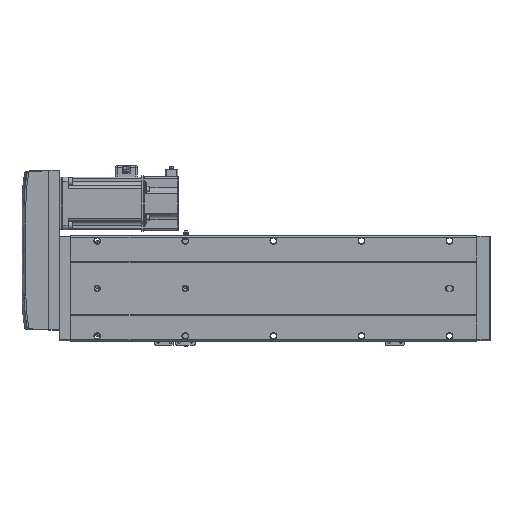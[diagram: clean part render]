
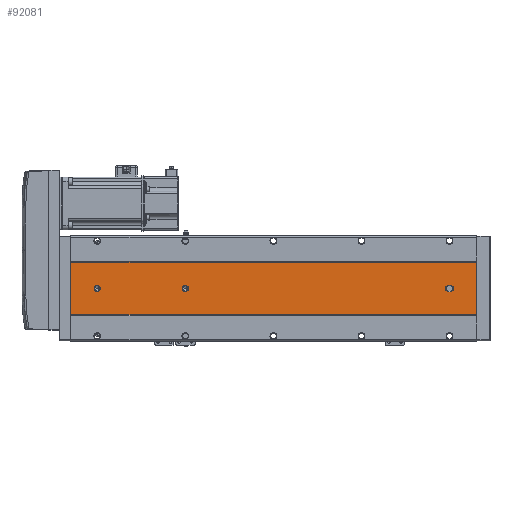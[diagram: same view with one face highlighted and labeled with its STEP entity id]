
A CAD part, front view. The second image highlights one B-rep face of the part: STEP entity #92081.
In plain terms, the highlighted planar face has unit normal (0, -1, 0).
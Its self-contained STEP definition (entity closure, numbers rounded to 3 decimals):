
#198 = CARTESIAN_POINT ( 'NONE',  ( -9.892, -52.848, 461. ) ) ;
#5840 = CARTESIAN_POINT ( 'NONE',  ( -43.392, -52.848, 32. ) ) ;
#7730 = CARTESIAN_POINT ( 'NONE',  ( -69.892, -52.848, 461. ) ) ;
#7739 = CARTESIAN_POINT ( 'NONE',  ( -39.892, -52.848, 327.5 ) ) ;
#8607 = AXIS2_PLACEMENT_3D ( 'NONE', #7730, #62104, #39400 ) ;
#8898 = EDGE_CURVE ( 'NONE', #44907, #81621, #56741, .T. ) ;
#8966 = DIRECTION ( 'NONE',  ( 0., 1., 0. ) ) ;
#9325 = DIRECTION ( 'NONE',  ( 0., 0., 1. ) ) ;
#10676 = CARTESIAN_POINT ( 'NONE',  ( -39.892, -52.848, 431. ) ) ;
#12040 = EDGE_CURVE ( 'NONE', #81042, #95299, #71099, .T. ) ;
#12882 = AXIS2_PLACEMENT_3D ( 'NONE', #22229, #22903, #61471 ) ;
#14608 = VERTEX_POINT ( 'NONE', #7739 ) ;
#15593 = DIRECTION ( 'NONE',  ( 0., 0., -1. ) ) ;
#16696 = ORIENTED_EDGE ( 'NONE', *, *, #8898, .T. ) ;
#17447 = CARTESIAN_POINT ( 'NONE',  ( -36.392, -52.848, 30. ) ) ;
#18337 = DIRECTION ( 'NONE',  ( 0., 1., 0. ) ) ;
#18970 = VERTEX_POINT ( 'NONE', #74453 ) ;
#20279 = DIRECTION ( 'NONE',  ( 0., 1., 0. ) ) ;
#21101 = EDGE_LOOP ( 'NONE', ( #91919, #40662 ) ) ;
#22111 = EDGE_CURVE ( 'NONE', #78019, #67251, #85796, .T. ) ;
#22229 = CARTESIAN_POINT ( 'NONE',  ( -39.892, -52.848, 331. ) ) ;
#22248 = CARTESIAN_POINT ( 'NONE',  ( -43.392, -52.848, 30. ) ) ;
#22252 = DIRECTION ( 'NONE',  ( 0., 0., 1. ) ) ;
#22376 = EDGE_CURVE ( 'NONE', #72151, #44907, #88194, .T. ) ;
#22903 = DIRECTION ( 'NONE',  ( 0., 1., 0. ) ) ;
#23802 = LINE ( 'NONE', #69312, #34887 ) ;
#26170 = CARTESIAN_POINT ( 'NONE',  ( -39.892, -52.848, 26.5 ) ) ;
#27383 = EDGE_CURVE ( 'NONE', #14608, #60573, #78781, .T. ) ;
#27561 = ORIENTED_EDGE ( 'NONE', *, *, #77263, .T. ) ;
#28607 = EDGE_CURVE ( 'NONE', #72017, #74970, #99547, .T. ) ;
#29290 = DIRECTION ( 'NONE',  ( 0., 0., -1. ) ) ;
#31434 = EDGE_CURVE ( 'NONE', #95299, #72151, #52305, .T. ) ;
#34220 = CARTESIAN_POINT ( 'NONE',  ( -39.892, -52.848, 431. ) ) ;
#34887 = VECTOR ( 'NONE', #15593, 1000. ) ;
#35324 = CARTESIAN_POINT ( 'NONE',  ( -69.892, -52.848, 0. ) ) ;
#36169 = CARTESIAN_POINT ( 'NONE',  ( -36.392, -52.848, 461. ) ) ;
#36738 = EDGE_CURVE ( 'NONE', #81621, #81042, #45639, .T. ) ;
#38735 = FACE_OUTER_BOUND ( 'NONE', #73675, .T. ) ;
#39400 = DIRECTION ( 'NONE',  ( 0., 0., 1. ) ) ;
#40662 = ORIENTED_EDGE ( 'NONE', *, *, #28607, .T. ) ;
#40727 = CARTESIAN_POINT ( 'NONE',  ( -9.892, -52.848, 461. ) ) ;
#40848 = CARTESIAN_POINT ( 'NONE',  ( -39.892, -52.848, 30. ) ) ;
#41168 = ORIENTED_EDGE ( 'NONE', *, *, #36738, .T. ) ;
#43516 = LINE ( 'NONE', #35324, #84080 ) ;
#43711 = DIRECTION ( 'NONE',  ( 0., 0., 1. ) ) ;
#44907 = VERTEX_POINT ( 'NONE', #26170 ) ;
#45639 = LINE ( 'NONE', #67051, #72799 ) ;
#48188 = ORIENTED_EDGE ( 'NONE', *, *, #27383, .T. ) ;
#48938 = CARTESIAN_POINT ( 'NONE',  ( -36.392, -52.848, 32. ) ) ;
#51763 = CARTESIAN_POINT ( 'NONE',  ( -39.892, -52.848, 334.5 ) ) ;
#52305 = LINE ( 'NONE', #36169, #86791 ) ;
#53895 = AXIS2_PLACEMENT_3D ( 'NONE', #73999, #20279, #83290 ) ;
#56289 = AXIS2_PLACEMENT_3D ( 'NONE', #88142, #8966, #9325 ) ;
#56567 = DIRECTION ( 'NONE',  ( 0., 0., 1. ) ) ;
#56741 = CIRCLE ( 'NONE', #53895, 3.5 ) ;
#56871 = CARTESIAN_POINT ( 'NONE',  ( -69.892, -52.848, 0. ) ) ;
#59374 = VERTEX_POINT ( 'NONE', #56871 ) ;
#60573 = VERTEX_POINT ( 'NONE', #51763 ) ;
#61471 = DIRECTION ( 'NONE',  ( 0., 0., 1. ) ) ;
#62011 = ORIENTED_EDGE ( 'NONE', *, *, #31434, .T. ) ;
#62104 = DIRECTION ( 'NONE',  ( 0., 1., 0. ) ) ;
#64227 = LINE ( 'NONE', #40727, #90144 ) ;
#64585 = DIRECTION ( 'NONE',  ( 0., 1., 0. ) ) ;
#64873 = VECTOR ( 'NONE', #77739, 1000. ) ;
#65537 = ORIENTED_EDGE ( 'NONE', *, *, #80108, .T. ) ;
#67051 = CARTESIAN_POINT ( 'NONE',  ( -43.392, -52.848, 461. ) ) ;
#67210 = FACE_BOUND ( 'NONE', #78829, .T. ) ;
#67251 = VERTEX_POINT ( 'NONE', #198 ) ;
#69312 = CARTESIAN_POINT ( 'NONE',  ( -69.892, -52.848, 461. ) ) ;
#70687 = CARTESIAN_POINT ( 'NONE',  ( -39.892, -52.848, 427.5 ) ) ;
#71099 = CIRCLE ( 'NONE', #91075, 3.5 ) ;
#71619 = EDGE_CURVE ( 'NONE', #67251, #18970, #64227, .T. ) ;
#72017 = VERTEX_POINT ( 'NONE', #79760 ) ;
#72151 = VERTEX_POINT ( 'NONE', #17447 ) ;
#72799 = VECTOR ( 'NONE', #22252, 1000. ) ;
#73577 = AXIS2_PLACEMENT_3D ( 'NONE', #10676, #82224, #43711 ) ;
#73675 = EDGE_LOOP ( 'NONE', ( #87588, #91587, #86808, #27561 ) ) ;
#73999 = CARTESIAN_POINT ( 'NONE',  ( -39.892, -52.848, 30. ) ) ;
#74453 = CARTESIAN_POINT ( 'NONE',  ( -9.892, -52.848, 0. ) ) ;
#74970 = VERTEX_POINT ( 'NONE', #70687 ) ;
#75682 = FACE_BOUND ( 'NONE', #21101, .T. ) ;
#76834 = ORIENTED_EDGE ( 'NONE', *, *, #22376, .T. ) ;
#77263 = EDGE_CURVE ( 'NONE', #78019, #59374, #23802, .T. ) ;
#77739 = DIRECTION ( 'NONE',  ( 1., 0., 0. ) ) ;
#78019 = VERTEX_POINT ( 'NONE', #94716 ) ;
#78781 = CIRCLE ( 'NONE', #56289, 3.5 ) ;
#78829 = EDGE_LOOP ( 'NONE', ( #41168, #85811, #62011, #76834, #16696 ) ) ;
#79760 = CARTESIAN_POINT ( 'NONE',  ( -39.892, -52.848, 434.5 ) ) ;
#80105 = AXIS2_PLACEMENT_3D ( 'NONE', #34220, #89306, #56567 ) ;
#80108 = EDGE_CURVE ( 'NONE', #60573, #14608, #84852, .T. ) ;
#81042 = VERTEX_POINT ( 'NONE', #5840 ) ;
#81621 = VERTEX_POINT ( 'NONE', #22248 ) ;
#81687 = DIRECTION ( 'NONE',  ( 0., 0., 1. ) ) ;
#82224 = DIRECTION ( 'NONE',  ( 0., 1., 0. ) ) ;
#83290 = DIRECTION ( 'NONE',  ( 0., 0., 1. ) ) ;
#84080 = VECTOR ( 'NONE', #89387, 1000. ) ;
#84852 = CIRCLE ( 'NONE', #12882, 3.5 ) ;
#85648 = FACE_BOUND ( 'NONE', #99402, .T. ) ;
#85721 = AXIS2_PLACEMENT_3D ( 'NONE', #40848, #64585, #88354 ) ;
#85796 = LINE ( 'NONE', #100904, #64873 ) ;
#85811 = ORIENTED_EDGE ( 'NONE', *, *, #12040, .T. ) ;
#86791 = VECTOR ( 'NONE', #29290, 1000. ) ;
#86808 = ORIENTED_EDGE ( 'NONE', *, *, #22111, .F. ) ;
#87196 = DIRECTION ( 'NONE',  ( 0., 0., -1. ) ) ;
#87588 = ORIENTED_EDGE ( 'NONE', *, *, #93312, .T. ) ;
#88142 = CARTESIAN_POINT ( 'NONE',  ( -39.892, -52.848, 331. ) ) ;
#88194 = CIRCLE ( 'NONE', #85721, 3.5 ) ;
#88354 = DIRECTION ( 'NONE',  ( 0., 0., 1. ) ) ;
#89306 = DIRECTION ( 'NONE',  ( 0., 1., 0. ) ) ;
#89387 = DIRECTION ( 'NONE',  ( 1., 0., 0. ) ) ;
#90144 = VECTOR ( 'NONE', #87196, 1000. ) ;
#91075 = AXIS2_PLACEMENT_3D ( 'NONE', #98290, #18337, #81687 ) ;
#91587 = ORIENTED_EDGE ( 'NONE', *, *, #71619, .F. ) ;
#91919 = ORIENTED_EDGE ( 'NONE', *, *, #96502, .T. ) ;
#92081 = ADVANCED_FACE ( 'NONE', ( #67210, #85648, #75682, #38735 ), #94558, .F. ) ;
#93312 = EDGE_CURVE ( 'NONE', #59374, #18970, #43516, .T. ) ;
#94558 = PLANE ( 'NONE',  #8607 ) ;
#94716 = CARTESIAN_POINT ( 'NONE',  ( -69.892, -52.848, 461. ) ) ;
#95299 = VERTEX_POINT ( 'NONE', #48938 ) ;
#96502 = EDGE_CURVE ( 'NONE', #74970, #72017, #96702, .T. ) ;
#96702 = CIRCLE ( 'NONE', #73577, 3.5 ) ;
#98290 = CARTESIAN_POINT ( 'NONE',  ( -39.892, -52.848, 32. ) ) ;
#99402 = EDGE_LOOP ( 'NONE', ( #48188, #65537 ) ) ;
#99547 = CIRCLE ( 'NONE', #80105, 3.5 ) ;
#100904 = CARTESIAN_POINT ( 'NONE',  ( -69.892, -52.848, 461. ) ) ;
